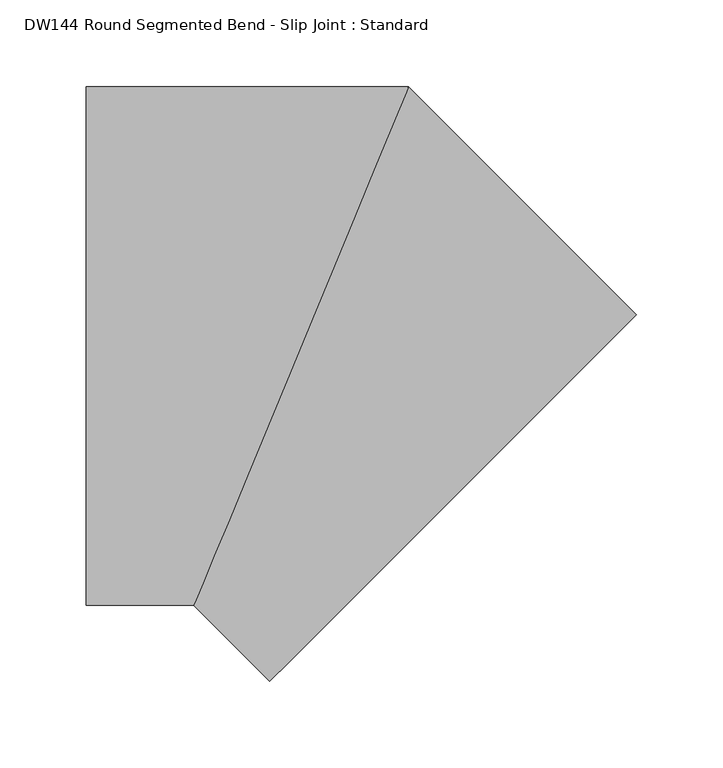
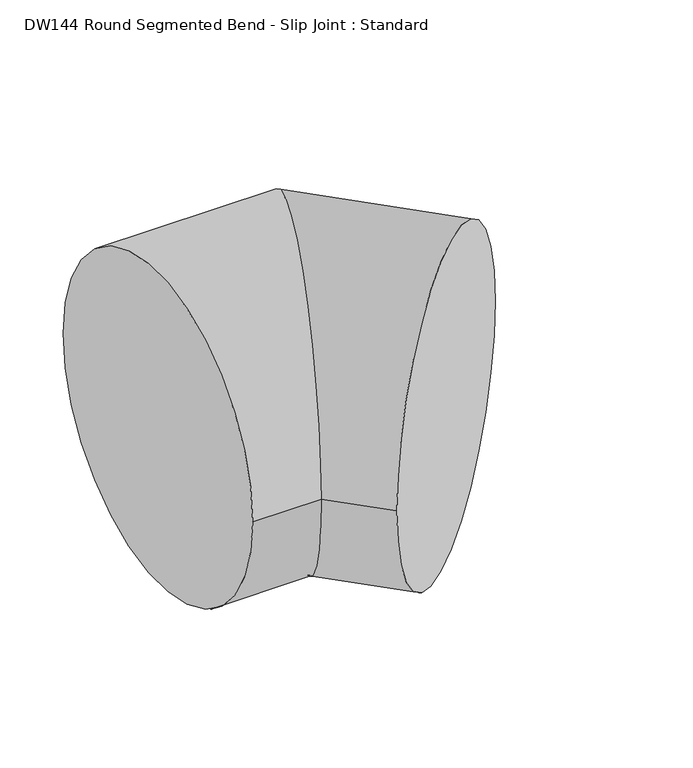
"""IFC4 building model written with IfcOpenShell, lengths in millimetres: duct fitting geometry, DW144 Round Segmented Bend - Slip Joint : Standard."""

from ifc_helpers import new_model, si_unit, frame, origin, place, context, project, spatial, circle_curve, ellipse_curve, source, transform, mapped, element, save
from ifc_brep_helpers import plane_surface, cylinder_surface, advanced_brep


def dw144_round_segmented_bend_slip_joint_standard_8b80c5ae(model_context):
    return source(origin(), model_context, "Body", "AdvancedBrep", [
        advanced_brep(
        [(-124.2640687, 150.0, 0.0), (-124.2640687, -150.0, 0.0), (-62.1320344, -150.0, 0.0), (62.1320344, 150.0, 0.0), (-18.1980515, -193.9339828, 0.0), (193.9339828, 18.1980515, 0.0)],
        [
            (0, 1, circle_curve(frame((-124.2640687, 0.0, 0.0), z_axis=(-1.0, 0.0, 0.0), x_axis=(0.0, -1.0, 0.0)), 150.0)),
            (1, 0, circle_curve(frame((-124.2640687, 0.0, 0.0), z_axis=(-1.0, 0.0, 0.0), x_axis=(0.0, -1.0, 0.0)), 150.0)),
            (1, 2),
            (2, 3, ellipse_curve(frame((0.0, 0.0, 0.0), z_axis=(-0.9238795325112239, 0.3826834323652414, 0.0), x_axis=(-0.3826834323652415, -0.9238795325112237, 0.0)), 162.35883, 150.0)),
            (3, 0),
            (3, 2, ellipse_curve(frame((0.0, 0.0, 0.0), z_axis=(-0.9238795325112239, 0.3826834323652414, 0.0), x_axis=(-0.3826834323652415, -0.9238795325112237, 0.0)), 162.35883, 150.0)),
            (2, 4),
            (4, 5, circle_curve(frame((87.8679656, -87.8679656, 0.0), z_axis=(-0.7071067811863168, 0.7071067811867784, 0.0), x_axis=(-0.7071067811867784, -0.7071067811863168, 0.0)), 150.0)),
            (5, 3),
            (5, 4, circle_curve(frame((87.8679656, -87.8679656, 0.0), z_axis=(-0.7071067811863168, 0.7071067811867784, 0.0), x_axis=(-0.7071067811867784, -0.7071067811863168, 0.0)), 150.0)),
        ],
        [
            plane_surface(frame((-124.2640687, 0.0, 0.0), z_axis=(-1.0, 0.0, 0.0), x_axis=(0.0, 0.0, 1.0))),
            cylinder_surface(frame((-124.2640687, 0.0, 0.0), z_axis=(-1.0, 0.0, 0.0), x_axis=(0.0, -1.0, 0.0)), 150.0),
            cylinder_surface(frame((0.0, 0.0, 0.0), z_axis=(-0.7071067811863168, 0.7071067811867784, 0.0), x_axis=(-0.7071067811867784, -0.7071067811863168, 0.0)), 150.0),
            plane_surface(frame((87.8679656, -87.8679656, 0.0), z_axis=(0.7071067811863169, -0.7071067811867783, 0.0), x_axis=(0.0, 0.0, 1.0))),
        ],
        [
            (0, [[1, 2]]),
            (1, [[3, 4, 5, -2]]),
            (1, [[-5, 6, -3, -1]]),
            (2, [[7, 8, 9, -4]]),
            (2, [[-9, 10, -7, -6]]),
            (3, [[-8, -10]]),
        ],
    ),
    ])


if __name__ == "__main__":
    model = new_model("IFC4")
    model_context = context("Model", 3, world=origin())
    ifc_project = project(units=[si_unit("LENGTHUNIT", "METRE", prefix="MILLI")], contexts=[model_context])
    site = spatial("IfcSite", under=ifc_project)
    building = spatial("IfcBuilding", under=site)
    placement = place(None, origin())
    dw144_round_segmented_bend_slip_joint_standard_shape = dw144_round_segmented_bend_slip_joint_standard_8b80c5ae(model_context)
    element("IfcDuctFitting", 1, ObjectType="DW144 Round Segmented Bend - Slip Joint : Standard", at=placement, inside=building, context=model_context, shape_type="MappedRepresentation", body=[
        mapped(dw144_round_segmented_bend_slip_joint_standard_shape, transform((0.0, 0.0, 0.0), x_axis=(1.0, 0.0, 0.0), y_axis=(0.0, 1.0, 0.0), z_axis=(0.0, 0.0, 1.0))),
    ])
    save(model, "model.ifc")
